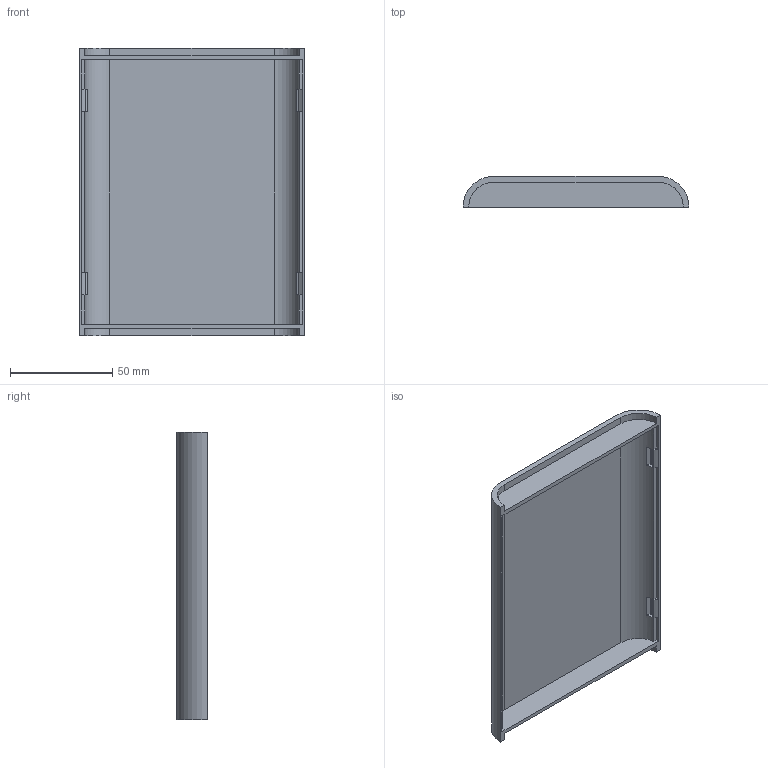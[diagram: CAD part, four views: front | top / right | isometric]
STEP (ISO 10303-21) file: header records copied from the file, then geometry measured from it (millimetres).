
FILE_DESCRIPTION (( 'STEP AP214' ), '1' );
FILE_NAME ('Tapa PP62.STEP', '2016-09-13T00:09:39', ( 'aaa' ), ( '' ), 'SwSTEP 2.0', 'SolidWorks 2013', '' );
FILE_SCHEMA (( 'AUTOMOTIVE_DESIGN' ));
Length unit declared in the file: millimetre
Products named in the file (1): Tapa PP62
Bounding box: 110.5 x 15 x 140.5 mm (x, y, z)
Volume: 52513.1 mm3; surface area: 41052.3 mm2
Topology: 1 solids, 1 shells, 67 faces, 164 edges, 104 vertices
Faces by surface type: plane 55, cylinder 12
Entity records: 1976 total; most frequent: CARTESIAN_POINT 336, DIRECTION 332, ORIENTED_EDGE 328, EDGE_CURVE 164, LINE 132, VECTOR 132, VERTEX_POINT 104, AXIS2_PLACEMENT_3D 100
